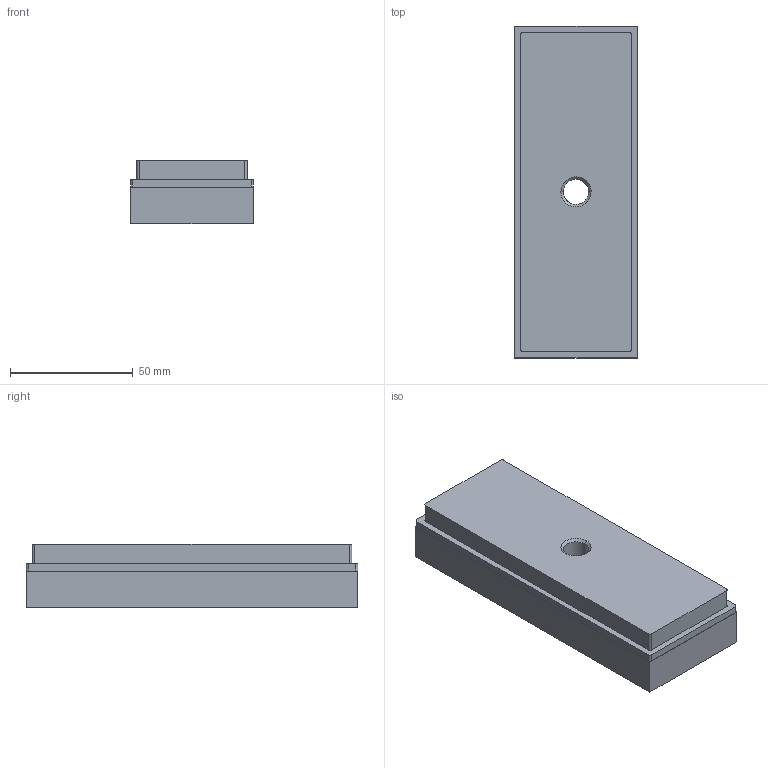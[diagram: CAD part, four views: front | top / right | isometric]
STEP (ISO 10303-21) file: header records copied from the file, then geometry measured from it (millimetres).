
FILE_DESCRIPTION (( 'STEP AP214' ), '1' );
FILE_NAME ('10RF.135060.001.15.STEP', '2026-06-19T12:40:20', ( '' ), ( '' ), 'SwSTEP 2.0', 'SolidWorks 2025', '' );
FILE_SCHEMA (( 'AUTOMOTIVE_DESIGN' ));
Length unit declared in the file: millimetre
Products named in the file (1): 10RF.135060.001.15
Bounding box: 50 x 135 x 26 mm (x, y, z)
Volume: 135848.6 mm3; surface area: 36143.4 mm2
Topology: 2 solids, 2 shells, 35 faces, 86 edges, 56 vertices
Faces by surface type: plane 21, cylinder 10, bspline 4
Entity records: 1518 total; most frequent: CARTESIAN_POINT 664, ORIENTED_EDGE 172, DIRECTION 156, EDGE_CURVE 86, LINE 60, VECTOR 60, VERTEX_POINT 56, AXIS2_PLACEMENT_3D 48
